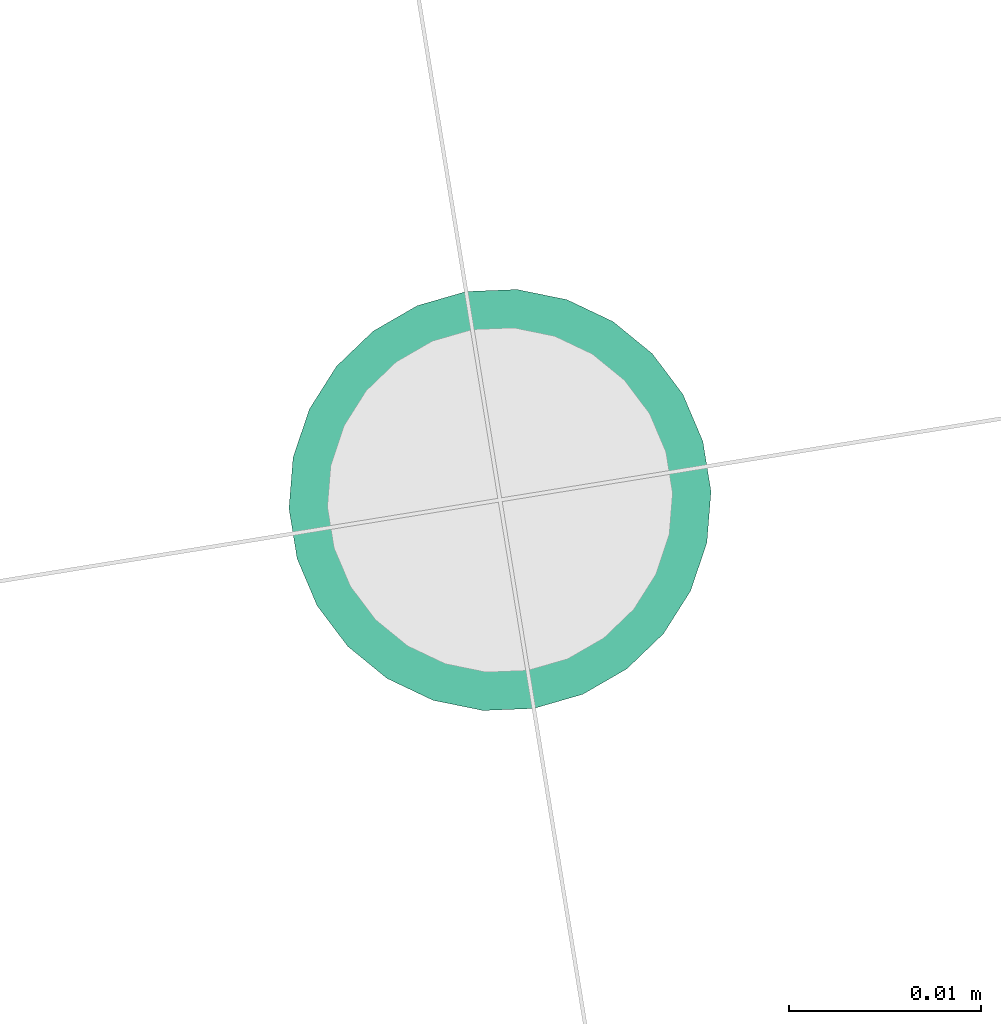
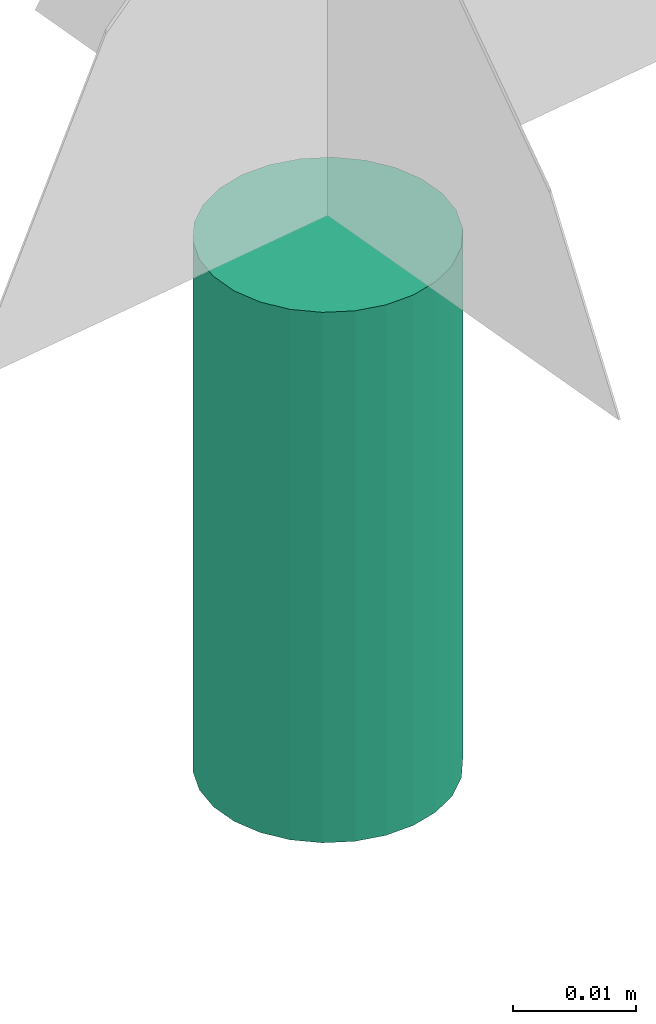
# One storey, part 9 of 11: 1 flow segment.
"""IFC2X3 building model written with IfcOpenShell, lengths in millimetres."""

from ifc_helpers import new_model, entity, si_unit, converted_unit, derived_unit, direction, frame, frame_2d, origin, origin_with_axes, place, context, subcontext, project, spatial, circle, extrude, type_object, element, save


model = new_model("IFC2X3")

# Units and contexts
plan_context = context("Plan", 3, precision=1e-05, world=origin_with_axes())
model_context = context("Model", 3, precision=0.01, world=origin(), true_north=direction((6.12323399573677e-17, 1.0)))
body_context = subcontext(model_context, "Body", "Model", "MODEL_VIEW")
ifc_project = project(units=[converted_unit("PLANEANGLEUNIT", "DEGREE", entity("IfcPositiveLengthMeasure", 0.0174532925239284), si_unit("PLANEANGLEUNIT", "RADIAN"), dimensions=[0, 0, 0, 0, 0, 0, 0]), si_unit("AREAUNIT", "SQUARE_METRE"), si_unit("LENGTHUNIT", "METRE", prefix="MILLI"), si_unit("MASSUNIT", "GRAM", prefix="KILO"), si_unit("POWERUNIT", "WATT"), si_unit("PRESSUREUNIT", "PASCAL", prefix="KILO"), si_unit("FORCEUNIT", "NEWTON", prefix="KILO"), si_unit("ELECTRICVOLTAGEUNIT", "VOLT"), si_unit("ELECTRICCURRENTUNIT", "AMPERE"), si_unit("THERMODYNAMICTEMPERATUREUNIT", "DEGREE_CELSIUS"), si_unit("TIMEUNIT", "SECOND"), si_unit("VOLUMEUNIT", "CUBIC_METRE"), derived_unit("LINEARVELOCITYUNIT", [(si_unit("LENGTHUNIT", "METRE"), 1), (si_unit("TIMEUNIT", "SECOND"), -1)]), derived_unit("VOLUMETRICFLOWRATEUNIT", [(si_unit("VOLUMEUNIT", "CUBIC_METRE"), 1), (si_unit("TIMEUNIT", "SECOND"), -1)]), derived_unit("THERMALTRANSMITTANCEUNIT", [(si_unit("POWERUNIT", "WATT"), 1), (si_unit("THERMODYNAMICTEMPERATUREUNIT", "KELVIN"), -1), (si_unit("AREAUNIT", "SQUARE_METRE"), -1)]), derived_unit("SOUNDPRESSUREUNIT", [(si_unit("PRESSUREUNIT", "PASCAL"), 1)])], contexts=[model_context, plan_context])

# Site, building, storey
site_placement = place(None, frame((-0.000710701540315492, 0.00438415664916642, 0.0), z_axis=(0.0, 0.0, 1.0), x_axis=(-0.160236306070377, 0.987078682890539, 0.0)))
site = spatial("IfcSite", under=ifc_project, at=site_placement, Name="Default", CompositionType="ELEMENT")
building_placement = place(site_placement, origin_with_axes())
building = spatial("IfcBuilding", under=site, at=building_placement, CompositionType="ELEMENT")
storey_placement = place(building_placement, frame((0.0, 0.0, 58999.9999999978), z_axis=(0.0, 0.0, 1.0), x_axis=(1.0, 0.0, 0.0)))
storey = spatial("IfcBuildingStorey", under=building, at=storey_placement, Name="Nivå F", CompositionType="ELEMENT", Elevation=58999.9999999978)

# Flow segment
pipe_segment_type = type_object("IfcPipeSegmentType", Name="Pipe Types:PEX rør", PredefinedType="NOTDEFINED")
flow_segment_placement = place(storey_placement, origin_with_axes())
element("IfcFlowSegment", 1, at=flow_segment_placement, inside=storey, type_object=pipe_segment_type, Name="Pipe Types:PEX rør", ObjectType="Pipe Types:PEX rør", context=body_context, shape_type="SweptSolid", body=[
    extrude(circle(Radius=11.0, at=frame_2d((0.0, -6.93034962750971e-11), x_axis=(1.0, 0.0))), frame((782607.755667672, -508373.262839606, -39.29468798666)), (0.0, 0.0, 1.0), 52.6001015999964),
])

save(model, "model.ifc")
